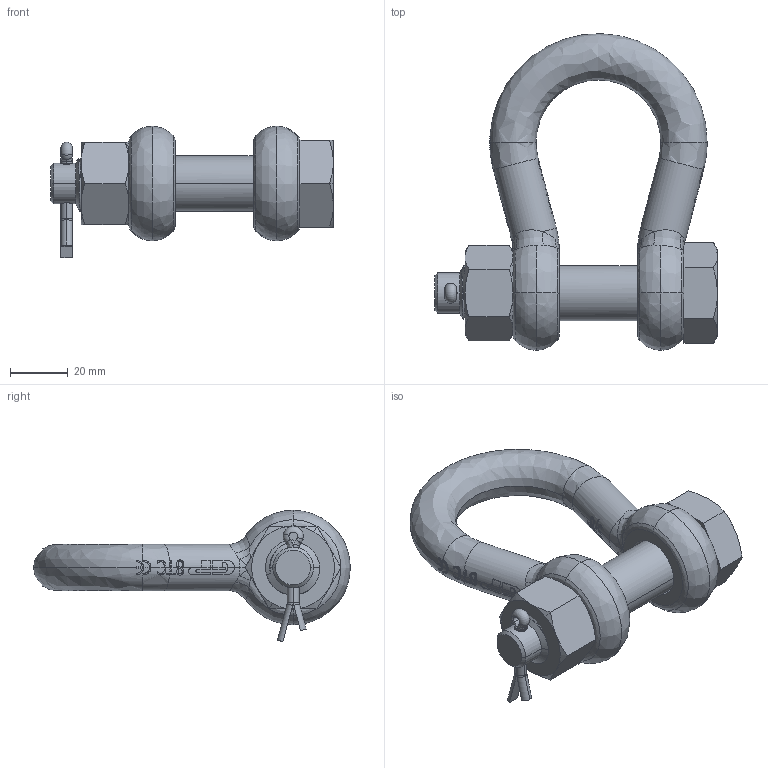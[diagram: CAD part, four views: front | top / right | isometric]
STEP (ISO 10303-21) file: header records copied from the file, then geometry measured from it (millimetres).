
FILE_DESCRIPTION (( 'STEP AP203' ), '1' );
FILE_NAME ('SUGHMB16.STEP', '2009-08-26T14:03:03', ( '.' ), ( '.' ), 'SwSTEP 2.0', 'SolidWorks 2009', '' );
FILE_SCHEMA (( 'CONFIG_CONTROL_DESIGN' ));
Length unit declared in the file: millimetre
Products named in the file (5): SUGHMB16; 5; 5_1; 5_2; 5_3
Assembly tree (4 placements, depth 2):
  SUGHMB16
    5_3
    5_2
    5_1
    5
Bounding box: 97.5 x 109.23 x 45.34 mm (x, y, z)
Volume: 96047 mm3; surface area: 29303.8 mm2
Topology: 4 solids, 4 shells, 724 faces, 1993 edges, 1284 vertices
Faces by surface type: bspline 324, plane 240, cylinder 127, cone 28, torus 5
Entity records: 37890 total; most frequent: CARTESIAN_POINT 22022, ORIENTED_EDGE 3962, DIRECTION 2028, EDGE_CURVE 1981, VERTEX_POINT 1284, LINE 828, VECTOR 828, B_SPLINE_CURVE_WITH_KNOTS 757
